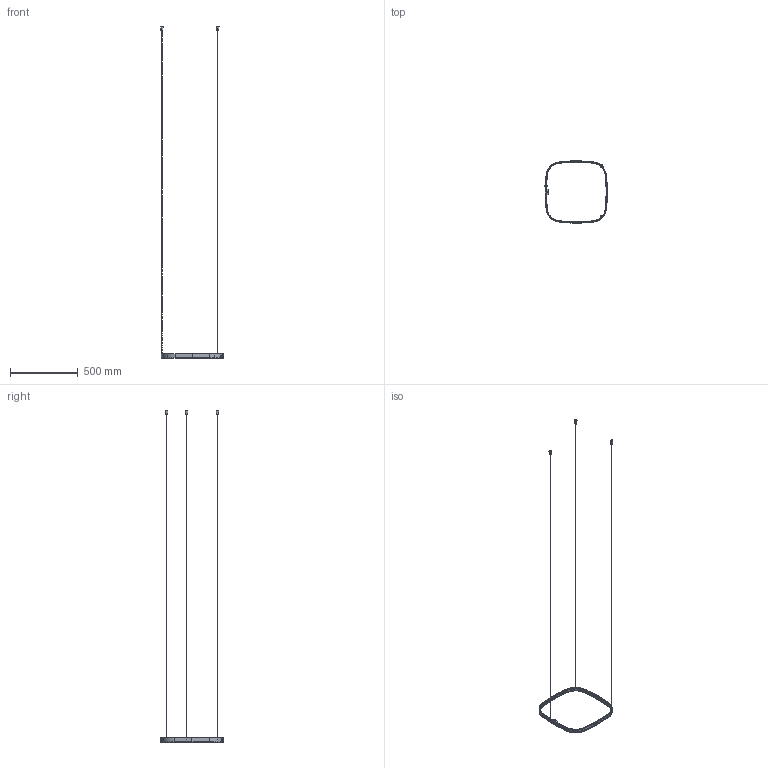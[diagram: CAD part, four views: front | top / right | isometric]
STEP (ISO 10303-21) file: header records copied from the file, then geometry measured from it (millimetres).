
FILE_DESCRIPTION(/* description */ (''),/* implementation_level */ '2;1');
FILE_NAME(/* name */ 'Zero Square M152__.050',/* time_stamp */ '2025-05-28T09:14:12+02:00',/* author */ (''),/* organization */ (''),/* preprocessor_version */ 'ST-DEVELOPER v16.5',/* originating_system */ '',/* authorisation */ '');
FILE_SCHEMA (('AUTOMOTIVE_DESIGN'));
Length unit declared in the file: millimetre
Products named in the file (8): Document; 3300.0143000.00 (profilo curvo Zero Square ALL 7,7x30mm L 460,5mm)_33
06.0143001.00; 3100.0042000.00 (schermo estruso Giplast 09PE79 PC 19x3,8mm per corni
ce quadra L int. 442,5mm)_3101.0042001.98; 5402.0001000.00 (fune ACC 19 fili D 1,2mm con cilindro terminale 3x3m
m)_5402.0001240.00; 3300.0298000.00 (manicotto per sospensione singola ALL D 20mm H 32mm 
con foro M10x1)_3302.0298000.00; 5200.0002000.00 (dispositivo regolazione fune OTTONE nichelato con in
nesto maschio M10 L 14mm)_5200.0002000.00; 3200.0200003.00 (copertura giunzione ACC 60,2x18,7mm H 23mm sp 1)_320
9.0200003.00; 5205.0004007.00 (nipplo D 10mm sp 2 gambo H 7mm M8x1 PC trasparente S
teab 5475-3-07-011)_5205.0004007.00
Assembly tree (13 placements, depth 2):
  Document
    3300.0143000.00 (profilo curvo Zero Square ALL 7,7x30mm L 460,5mm)_33
06.0143001.00
    3100.0042000.00 (schermo estruso Giplast 09PE79 PC 19x3,8mm per corni
ce quadra L int. 442,5mm)_3101.0042001.98
    5402.0001000.00 (fune ACC 19 fili D 1,2mm con cilindro terminale 3x3m
m)_5402.0001240.00  x3
    3300.0298000.00 (manicotto per sospensione singola ALL D 20mm H 32mm 
con foro M10x1)_3302.0298000.00  x3
    5200.0002000.00 (dispositivo regolazione fune OTTONE nichelato con in
nesto maschio M10 L 14mm)_5200.0002000.00  x3
    3200.0200003.00 (copertura giunzione ACC 60,2x18,7mm H 23mm sp 1)_320
9.0200003.00
    5205.0004007.00 (nipplo D 10mm sp 2 gambo H 7mm M8x1 PC trasparente S
teab 5475-3-07-011)_5205.0004007.00
Bounding box: 464.68 x 460.52 x 2454.95 mm (x, y, z)
Volume: 271529.9 mm3; surface area: 259253.1 mm2
Topology: 19 solids, 19 shells, 1057 faces, 2376 edges, 1361 vertices
Faces by surface type: bspline 831, plane 226
Entity records: 52105 total; most frequent: CARTESIAN_POINT 41127, ORIENTED_EDGE 3824, EDGE_CURVE 1912, VERTEX_POINT 1065, EDGE_LOOP 881, ADVANCED_FACE 863, FACE_OUTER_BOUND 863, B_SPLINE_CURVE_WITH_KNOTS 679
